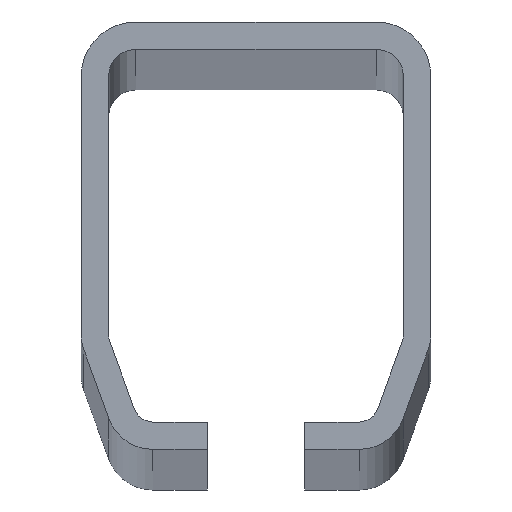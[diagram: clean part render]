
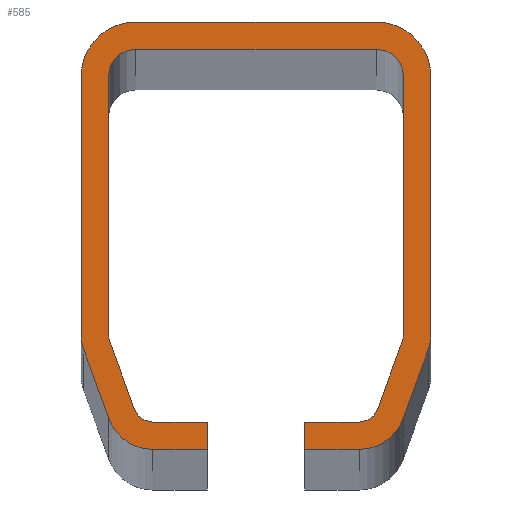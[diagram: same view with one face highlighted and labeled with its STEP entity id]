
A CAD part, top view. The second image highlights one B-rep face of the part: STEP entity #585.
In plain terms, the highlighted planar face has unit normal (0, 0, 1).
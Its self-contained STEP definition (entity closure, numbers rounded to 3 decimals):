
#31=PLANE('',#641);
#61=FACE_OUTER_BOUND('',#91,.T.);
#91=EDGE_LOOP('',(#489,#490,#491,#492,#493,#494,#495,#496,#497,#498,#499,
#500,#501,#502,#503,#504,#505,#506,#507,#508,#509,#510,#511,#512,#513,#514,
#515,#516));
#95=LINE('',#825,#155);
#99=LINE('',#837,#159);
#103=LINE('',#849,#163);
#107=LINE('',#861,#167);
#111=LINE('',#873,#171);
#115=LINE('',#885,#175);
#118=LINE('',#891,#178);
#121=LINE('',#897,#181);
#125=LINE('',#909,#185);
#129=LINE('',#921,#189);
#133=LINE('',#933,#193);
#137=LINE('',#945,#197);
#141=LINE('',#957,#201);
#145=LINE('',#969,#205);
#148=LINE('',#975,#208);
#151=LINE('',#980,#211);
#155=VECTOR('',#655,19.099);
#159=VECTOR('',#667,66.737);
#163=VECTOR('',#679,62.);
#167=VECTOR('',#691,66.737);
#171=VECTOR('',#703,19.099);
#175=VECTOR('',#715,14.088);
#178=VECTOR('',#720,7.);
#181=VECTOR('',#725,14.088);
#185=VECTOR('',#737,19.099);
#189=VECTOR('',#749,66.737);
#193=VECTOR('',#761,62.);
#197=VECTOR('',#773,66.737);
#201=VECTOR('',#785,19.099);
#205=VECTOR('',#797,14.088);
#208=VECTOR('',#802,7.);
#211=VECTOR('',#807,14.088);
#213=CIRCLE('',#590,12.);
#215=CIRCLE('',#594,10.);
#217=CIRCLE('',#598,14.);
#219=CIRCLE('',#602,14.);
#221=CIRCLE('',#606,10.);
#223=CIRCLE('',#610,12.);
#225=CIRCLE('',#616,5.);
#227=CIRCLE('',#620,3.);
#229=CIRCLE('',#624,7.);
#231=CIRCLE('',#628,7.);
#233=CIRCLE('',#632,3.);
#235=CIRCLE('',#636,5.);
#237=VERTEX_POINT('',#815);
#238=VERTEX_POINT('',#816);
#241=VERTEX_POINT('',#824);
#243=VERTEX_POINT('',#830);
#245=VERTEX_POINT('',#836);
#247=VERTEX_POINT('',#842);
#249=VERTEX_POINT('',#848);
#251=VERTEX_POINT('',#854);
#253=VERTEX_POINT('',#860);
#255=VERTEX_POINT('',#866);
#257=VERTEX_POINT('',#872);
#259=VERTEX_POINT('',#878);
#261=VERTEX_POINT('',#884);
#263=VERTEX_POINT('',#890);
#265=VERTEX_POINT('',#896);
#267=VERTEX_POINT('',#902);
#269=VERTEX_POINT('',#908);
#271=VERTEX_POINT('',#914);
#273=VERTEX_POINT('',#920);
#275=VERTEX_POINT('',#926);
#277=VERTEX_POINT('',#932);
#279=VERTEX_POINT('',#938);
#281=VERTEX_POINT('',#944);
#283=VERTEX_POINT('',#950);
#285=VERTEX_POINT('',#956);
#287=VERTEX_POINT('',#962);
#289=VERTEX_POINT('',#968);
#291=VERTEX_POINT('',#974);
#293=EDGE_CURVE('',#237,#238,#213,.T.);
#297=EDGE_CURVE('',#238,#241,#95,.T.);
#300=EDGE_CURVE('',#241,#243,#215,.T.);
#303=EDGE_CURVE('',#243,#245,#99,.T.);
#306=EDGE_CURVE('',#245,#247,#217,.T.);
#309=EDGE_CURVE('',#247,#249,#103,.T.);
#312=EDGE_CURVE('',#249,#251,#219,.T.);
#315=EDGE_CURVE('',#251,#253,#107,.T.);
#318=EDGE_CURVE('',#253,#255,#221,.T.);
#321=EDGE_CURVE('',#255,#257,#111,.T.);
#324=EDGE_CURVE('',#257,#259,#223,.T.);
#327=EDGE_CURVE('',#259,#261,#115,.T.);
#330=EDGE_CURVE('',#261,#263,#118,.T.);
#333=EDGE_CURVE('',#263,#265,#121,.T.);
#336=EDGE_CURVE('',#265,#267,#225,.T.);
#339=EDGE_CURVE('',#267,#269,#125,.T.);
#342=EDGE_CURVE('',#269,#271,#227,.T.);
#345=EDGE_CURVE('',#271,#273,#129,.T.);
#348=EDGE_CURVE('',#273,#275,#229,.T.);
#351=EDGE_CURVE('',#275,#277,#133,.T.);
#354=EDGE_CURVE('',#277,#279,#231,.T.);
#357=EDGE_CURVE('',#279,#281,#137,.T.);
#360=EDGE_CURVE('',#281,#283,#233,.T.);
#363=EDGE_CURVE('',#283,#285,#141,.T.);
#366=EDGE_CURVE('',#285,#287,#235,.T.);
#369=EDGE_CURVE('',#287,#289,#145,.T.);
#372=EDGE_CURVE('',#289,#291,#148,.T.);
#375=EDGE_CURVE('',#291,#237,#151,.T.);
#489=ORIENTED_EDGE('',*,*,#293,.F.);
#490=ORIENTED_EDGE('',*,*,#375,.F.);
#491=ORIENTED_EDGE('',*,*,#372,.F.);
#492=ORIENTED_EDGE('',*,*,#369,.F.);
#493=ORIENTED_EDGE('',*,*,#366,.F.);
#494=ORIENTED_EDGE('',*,*,#363,.F.);
#495=ORIENTED_EDGE('',*,*,#360,.F.);
#496=ORIENTED_EDGE('',*,*,#357,.F.);
#497=ORIENTED_EDGE('',*,*,#354,.F.);
#498=ORIENTED_EDGE('',*,*,#351,.F.);
#499=ORIENTED_EDGE('',*,*,#348,.F.);
#500=ORIENTED_EDGE('',*,*,#345,.F.);
#501=ORIENTED_EDGE('',*,*,#342,.F.);
#502=ORIENTED_EDGE('',*,*,#339,.F.);
#503=ORIENTED_EDGE('',*,*,#336,.F.);
#504=ORIENTED_EDGE('',*,*,#333,.F.);
#505=ORIENTED_EDGE('',*,*,#330,.F.);
#506=ORIENTED_EDGE('',*,*,#327,.F.);
#507=ORIENTED_EDGE('',*,*,#324,.F.);
#508=ORIENTED_EDGE('',*,*,#321,.F.);
#509=ORIENTED_EDGE('',*,*,#318,.F.);
#510=ORIENTED_EDGE('',*,*,#315,.F.);
#511=ORIENTED_EDGE('',*,*,#312,.F.);
#512=ORIENTED_EDGE('',*,*,#309,.F.);
#513=ORIENTED_EDGE('',*,*,#306,.F.);
#514=ORIENTED_EDGE('',*,*,#303,.F.);
#515=ORIENTED_EDGE('',*,*,#300,.F.);
#516=ORIENTED_EDGE('',*,*,#297,.F.);
#585=ADVANCED_FACE('',(#61),#31,.T.);
#590=AXIS2_PLACEMENT_3D('',#817,#647,#648);
#594=AXIS2_PLACEMENT_3D('',#831,#660,#661);
#598=AXIS2_PLACEMENT_3D('',#843,#672,#673);
#602=AXIS2_PLACEMENT_3D('',#855,#684,#685);
#606=AXIS2_PLACEMENT_3D('',#867,#696,#697);
#610=AXIS2_PLACEMENT_3D('',#879,#708,#709);
#616=AXIS2_PLACEMENT_3D('',#903,#730,#731);
#620=AXIS2_PLACEMENT_3D('',#915,#742,#743);
#624=AXIS2_PLACEMENT_3D('',#927,#754,#755);
#628=AXIS2_PLACEMENT_3D('',#939,#766,#767);
#632=AXIS2_PLACEMENT_3D('',#951,#778,#779);
#636=AXIS2_PLACEMENT_3D('',#963,#790,#791);
#641=AXIS2_PLACEMENT_3D('',#982,#809,#810);
#647=DIRECTION('center_axis',(0.,0.,-1.));
#648=DIRECTION('ref_axis',(0.94,0.342,0.));
#655=DIRECTION('',(-0.342,0.94,0.));
#660=DIRECTION('center_axis',(0.,0.,-1.));
#661=DIRECTION('ref_axis',(1.,0.,0.));
#667=DIRECTION('',(0.,1.,0.));
#672=DIRECTION('center_axis',(0.,0.,-1.));
#673=DIRECTION('ref_axis',(0.,-1.,0.));
#679=DIRECTION('',(1.,0.,0.));
#684=DIRECTION('center_axis',(0.,0.,-1.));
#685=DIRECTION('ref_axis',(-1.,0.,0.));
#691=DIRECTION('',(0.,-1.,0.));
#696=DIRECTION('center_axis',(0.,0.,-1.));
#697=DIRECTION('ref_axis',(-0.94,0.342,0.));
#703=DIRECTION('',(-0.342,-0.94,0.));
#708=DIRECTION('center_axis',(0.,0.,-1.));
#709=DIRECTION('ref_axis',(0.,1.,0.));
#715=DIRECTION('',(-1.,0.,0.));
#720=DIRECTION('',(0.,1.,0.));
#725=DIRECTION('',(1.,0.,0.));
#730=DIRECTION('center_axis',(0.,0.,1.));
#731=DIRECTION('ref_axis',(0.,-1.,0.));
#737=DIRECTION('',(0.342,0.94,0.));
#742=DIRECTION('center_axis',(0.,0.,1.));
#743=DIRECTION('ref_axis',(0.94,-0.342,0.));
#749=DIRECTION('',(0.,1.,0.));
#754=DIRECTION('center_axis',(0.,0.,1.));
#755=DIRECTION('ref_axis',(1.,0.,0.));
#761=DIRECTION('',(-1.,0.,0.));
#766=DIRECTION('center_axis',(0.,0.,1.));
#767=DIRECTION('ref_axis',(0.,1.,0.));
#773=DIRECTION('',(0.,-1.,0.));
#778=DIRECTION('center_axis',(0.,0.,1.));
#779=DIRECTION('ref_axis',(-1.,0.,0.));
#785=DIRECTION('',(0.342,-0.94,0.));
#790=DIRECTION('center_axis',(0.,0.,1.));
#791=DIRECTION('ref_axis',(-0.94,-0.342,0.));
#797=DIRECTION('',(1.,0.,0.));
#802=DIRECTION('',(0.,-1.,0.));
#807=DIRECTION('',(-1.,0.,0.));
#809=DIRECTION('center_axis',(0.,0.,1.));
#810=DIRECTION('ref_axis',(1.,0.,0.));
#815=CARTESIAN_POINT('',(-26.588,-7.,6000.));
#816=CARTESIAN_POINT('',(-37.865,0.896,6000.));
#817=CARTESIAN_POINT('Origin',(-26.588,5.,6000.));
#824=CARTESIAN_POINT('',(-44.397,18.843,6000.));
#825=CARTESIAN_POINT('',(-37.865,0.896,6000.));
#830=CARTESIAN_POINT('',(-45.,22.263,6000.));
#831=CARTESIAN_POINT('Origin',(-35.,22.263,6000.));
#836=CARTESIAN_POINT('',(-45.,89.,6000.));
#837=CARTESIAN_POINT('',(-45.,22.263,6000.));
#842=CARTESIAN_POINT('',(-31.,103.,6000.));
#843=CARTESIAN_POINT('Origin',(-31.,89.,6000.));
#848=CARTESIAN_POINT('',(31.,103.,6000.));
#849=CARTESIAN_POINT('',(-31.,103.,6000.));
#854=CARTESIAN_POINT('',(45.,89.,6000.));
#855=CARTESIAN_POINT('Origin',(31.,89.,6000.));
#860=CARTESIAN_POINT('',(45.,22.263,6000.));
#861=CARTESIAN_POINT('',(45.,89.,6000.));
#866=CARTESIAN_POINT('',(44.397,18.843,6000.));
#867=CARTESIAN_POINT('Origin',(35.,22.263,6000.));
#872=CARTESIAN_POINT('',(37.865,0.896,6000.));
#873=CARTESIAN_POINT('',(44.397,18.843,6000.));
#878=CARTESIAN_POINT('',(26.588,-7.,6000.));
#879=CARTESIAN_POINT('Origin',(26.588,5.,6000.));
#884=CARTESIAN_POINT('',(12.5,-7.,6000.));
#885=CARTESIAN_POINT('',(26.588,-7.,6000.));
#890=CARTESIAN_POINT('',(12.5,0.,6000.));
#891=CARTESIAN_POINT('',(12.5,-7.,6000.));
#896=CARTESIAN_POINT('',(26.588,0.,6000.));
#897=CARTESIAN_POINT('',(12.5,0.,6000.));
#902=CARTESIAN_POINT('',(31.287,3.29,6000.));
#903=CARTESIAN_POINT('Origin',(26.588,5.,6000.));
#908=CARTESIAN_POINT('',(37.819,21.237,6000.));
#909=CARTESIAN_POINT('',(31.287,3.29,6000.));
#914=CARTESIAN_POINT('',(38.,22.263,6000.));
#915=CARTESIAN_POINT('Origin',(35.,22.263,6000.));
#920=CARTESIAN_POINT('',(38.,89.,6000.));
#921=CARTESIAN_POINT('',(38.,22.263,6000.));
#926=CARTESIAN_POINT('',(31.,96.,6000.));
#927=CARTESIAN_POINT('Origin',(31.,89.,6000.));
#932=CARTESIAN_POINT('',(-31.,96.,6000.));
#933=CARTESIAN_POINT('',(31.,96.,6000.));
#938=CARTESIAN_POINT('',(-38.,89.,6000.));
#939=CARTESIAN_POINT('Origin',(-31.,89.,6000.));
#944=CARTESIAN_POINT('',(-38.,22.263,6000.));
#945=CARTESIAN_POINT('',(-38.,89.,6000.));
#950=CARTESIAN_POINT('',(-37.819,21.237,6000.));
#951=CARTESIAN_POINT('Origin',(-35.,22.263,6000.));
#956=CARTESIAN_POINT('',(-31.287,3.29,6000.));
#957=CARTESIAN_POINT('',(-37.819,21.237,6000.));
#962=CARTESIAN_POINT('',(-26.588,0.,6000.));
#963=CARTESIAN_POINT('Origin',(-26.588,5.,6000.));
#968=CARTESIAN_POINT('',(-12.5,0.,6000.));
#969=CARTESIAN_POINT('',(-26.588,0.,6000.));
#974=CARTESIAN_POINT('',(-12.5,-7.,6000.));
#975=CARTESIAN_POINT('',(-12.5,0.,6000.));
#980=CARTESIAN_POINT('',(-12.5,-7.,6000.));
#982=CARTESIAN_POINT('Origin',(0.,52.305,6000.));
